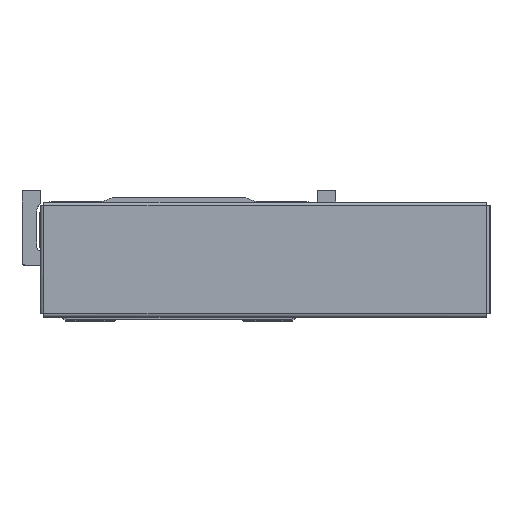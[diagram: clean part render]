
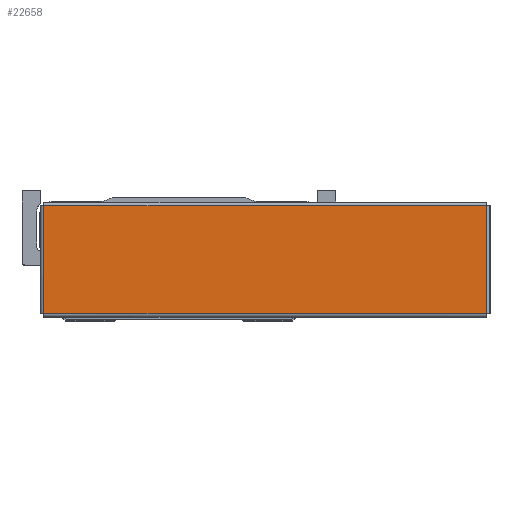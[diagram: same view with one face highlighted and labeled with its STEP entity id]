
A CAD part, top view. The second image highlights one B-rep face of the part: STEP entity #22658.
In plain terms, the highlighted planar face has unit normal (0, 0, 1) as drawn and (0, -1, 0) by its records, which use the part's own axes.
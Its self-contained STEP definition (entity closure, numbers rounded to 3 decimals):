
#12 = CARTESIAN_POINT ( 'NONE',  ( 128.363, -1.2, -31.363 ) ) ;
#20 = CARTESIAN_POINT ( 'NONE',  ( -128.363, -1.2, 31.363 ) ) ;
#55 = CARTESIAN_POINT ( 'NONE',  ( 128.363, -1.2, 31.363 ) ) ;
#59 = CARTESIAN_POINT ( 'NONE',  ( -128.363, -1.2, -31.363 ) ) ;
#6616 = AXIS2_PLACEMENT_3D ( 'NONE', #43727, #43742, #43757 ) ;
#9178 = FACE_OUTER_BOUND ( 'NONE', #11077, .T. ) ;
#11077 = EDGE_LOOP ( 'NONE', ( #40525, #40489, #40495, #40443 ) ) ;
#13513 = DIRECTION ( 'NONE',  ( -1., 0., 0. ) ) ;
#13527 = CARTESIAN_POINT ( 'NONE',  ( 128.393, -1.2, 31.363 ) ) ;
#13554 = CARTESIAN_POINT ( 'NONE',  ( 128.363, -1.2, -31.393 ) ) ;
#13585 = DIRECTION ( 'NONE',  ( 0., 0., 1. ) ) ;
#13594 = CARTESIAN_POINT ( 'NONE',  ( -128.363, -1.2, 31.393 ) ) ;
#13627 = DIRECTION ( 'NONE',  ( 0., 0., -1. ) ) ;
#13733 = CARTESIAN_POINT ( 'NONE',  ( -128.393, -1.2, -31.363 ) ) ;
#13773 = DIRECTION ( 'NONE',  ( 1., 0., 0. ) ) ;
#18151 = VERTEX_POINT ( 'NONE', #55 ) ;
#18153 = VERTEX_POINT ( 'NONE', #59 ) ;
#18156 = VERTEX_POINT ( 'NONE', #12 ) ;
#18160 = VERTEX_POINT ( 'NONE', #20 ) ;
#22658 = ADVANCED_FACE ( 'NONE', ( #9178 ), #43768, .F. ) ;
#25602 = EDGE_CURVE ( 'NONE', #18151, #18160, #31247, .T. ) ;
#25620 = EDGE_CURVE ( 'NONE', #18156, #18151, #31229, .T. ) ;
#25639 = EDGE_CURVE ( 'NONE', #18160, #18153, #31254, .T. ) ;
#25675 = EDGE_CURVE ( 'NONE', #18153, #18156, #31314, .T. ) ;
#31229 = LINE ( 'NONE', #13554, #31265 ) ;
#31247 = LINE ( 'NONE', #13527, #31272 ) ;
#31254 = LINE ( 'NONE', #13594, #31260 ) ;
#31260 = VECTOR ( 'NONE', #13627, 1000. ) ;
#31265 = VECTOR ( 'NONE', #13585, 1000. ) ;
#31272 = VECTOR ( 'NONE', #13513, 1000. ) ;
#31314 = LINE ( 'NONE', #13733, #31324 ) ;
#31324 = VECTOR ( 'NONE', #13773, 1000. ) ;
#40443 = ORIENTED_EDGE ( 'NONE', *, *, #25620, .T. ) ;
#40489 = ORIENTED_EDGE ( 'NONE', *, *, #25639, .T. ) ;
#40495 = ORIENTED_EDGE ( 'NONE', *, *, #25675, .T. ) ;
#40525 = ORIENTED_EDGE ( 'NONE', *, *, #25602, .T. ) ;
#43727 = CARTESIAN_POINT ( 'NONE',  ( 0., -1.2, 0. ) ) ;
#43742 = DIRECTION ( 'NONE',  ( 0., 1., 0. ) ) ;
#43757 = DIRECTION ( 'NONE',  ( 0., 0., 1. ) ) ;
#43768 = PLANE ( 'NONE',  #6616 ) ;
